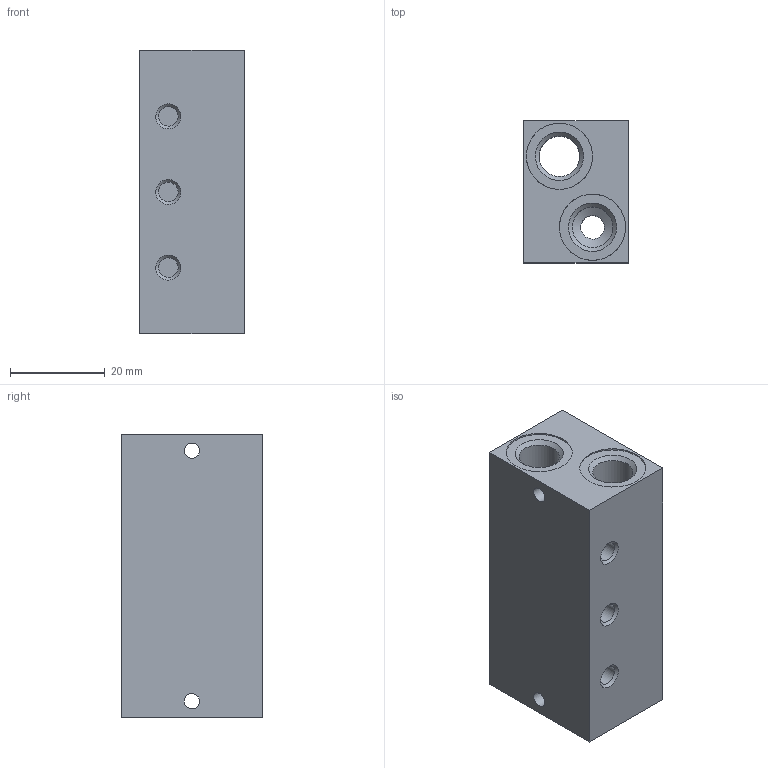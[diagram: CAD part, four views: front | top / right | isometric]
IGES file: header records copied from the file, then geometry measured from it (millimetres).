
Global section: file name: 355_03; native system: Autodesk Inventor 2014; preprocessor: unknown; author: R.Rivoltella; organization: Pneumax S.p.A.; date: 20161003.105244; units: millimetre
Bounding box: 22 x 30 x 60 mm (x, y, z)
Volume: 33096.3 mm3; surface area: 11104.5 mm2
Topology: 1 solids, 1 shells, 57 faces, 164 edges, 118 vertices
Faces by surface type: bspline 57
